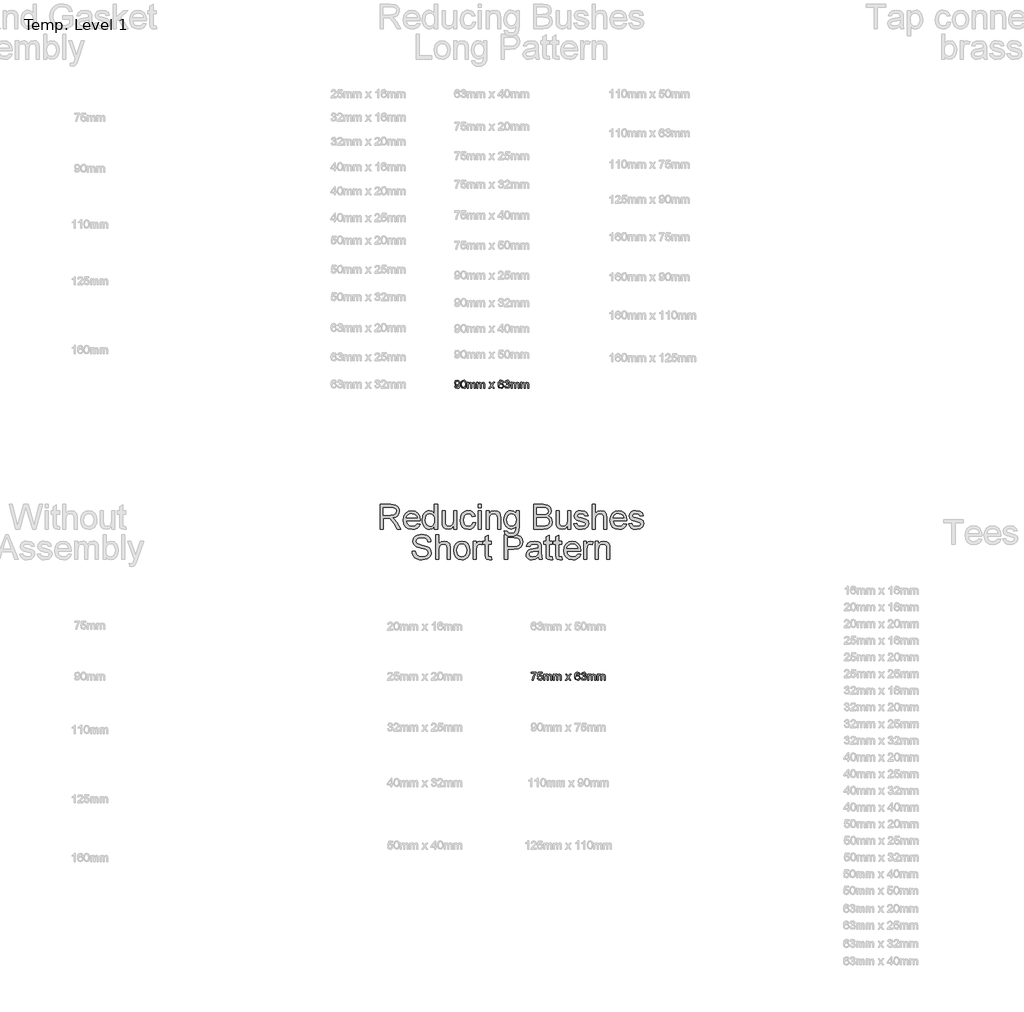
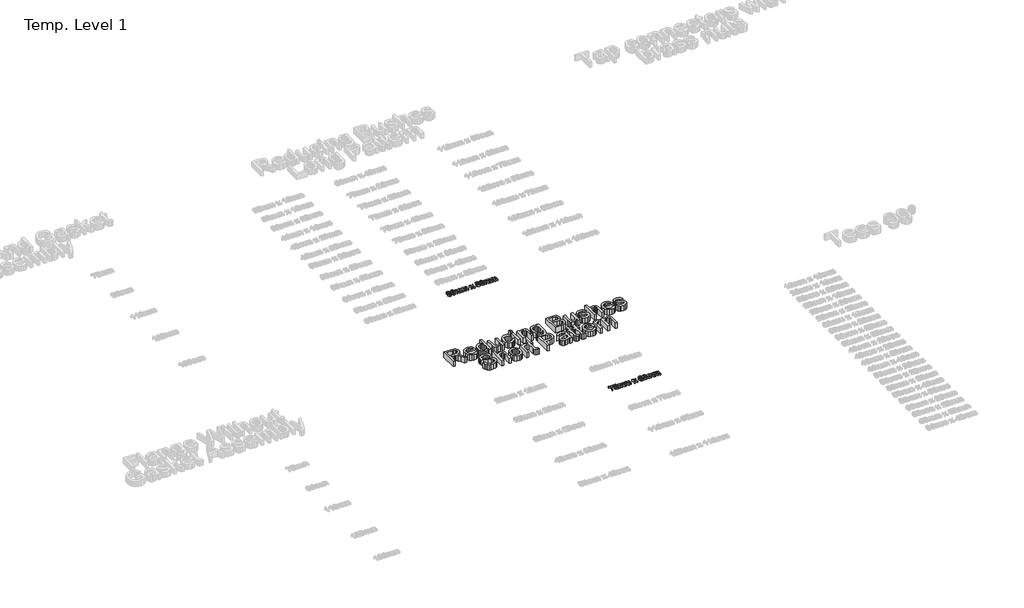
# One storey, part 41 of 62: 3 proxies.
"""IFC4 building model written with IfcOpenShell, lengths in millimetres."""

from ifc_helpers import new_model, si_unit, origin, origin_with_axes, place, context, project, spatial, polyline, outline, extrude, element, save

model = new_model("IFC4")

# Units and contexts
model_context = context("Model", 3, world=origin())
ifc_project = project(units=[si_unit("LENGTHUNIT", "METRE", prefix="MILLI")], contexts=[model_context])

# Site, building, storey
site = spatial("IfcSite", under=ifc_project)
building = spatial("IfcBuilding", under=site)
storey = spatial("IfcBuildingStorey", under=building, Name="Temp. Level 1", Elevation=0.0)

# Proxies
placement = place(None, origin())
element("IfcBuildingElementProxy", 1, Name="150mm Arial", ObjectType="150mm Arial", at=placement, inside=storey, context=model_context, shape_type="SweptSolid", body=[
    extrude(outline(polyline([(23633.4253288, -6979.0446709), (23633.4253288, -6831.3523632), (23697.0671558, -6831.3523632), (23726.6164346, -6835.3367382), (23735.7119875, -6840.8535651), (23742.7702808, -6849.4352959), (23747.3000284, -6860.0768223), (23748.8099442, -6871.7730362), (23746.3084418, -6886.3223151), (23738.8039346, -6898.3836132), (23726.071062, -6907.2267622), (23707.8844635, -6912.1215939), (23718.3772519, -6920.0182286), (23733.3411942, -6939.0206324), (23757.9685981, -6979.0446709), (23736.5142712, -6979.0446709), (23717.2955212, -6948.4316901), (23703.4133096, -6928.167267), (23693.6597038, -6918.5939497), (23684.8796558, -6915.0783247), (23674.1705212, -6914.4292862), (23651.8868673, -6914.4292862), (23651.8868673, -6979.0446709), (23633.4253288, -6979.0446709)]), holes=[polyline([(23651.8868673, -6895.9677478), (23693.2089827, -6895.9677478), (23714.2847038, -6893.3535651), (23726.2558577, -6884.9881805), (23730.3484058, -6872.4581324), (23728.3967832, -6863.4527237), (23722.5419154, -6856.1961132), (23712.4682976, -6851.4094545), (23697.860425, -6849.8139016), (23651.8868673, -6849.8139016), (23651.8868673, -6895.9677478)])]), origin_with_axes(), (0.0, 0.0, 1.0), 50.0),
    extrude(outline(polyline([(23854.7474442, -6946.7369786), (23872.8484058, -6949.0446709), (23866.3264707, -6962.683493), (23855.9193192, -6972.8788055), (23841.8613264, -6979.2339737), (23824.3868673, -6981.3523632), (23802.7252087, -6977.6970146), (23786.0575404, -6966.7309689), (23775.4295356, -6949.1663656), (23771.8868673, -6925.7153439), (23775.4655933, -6901.4755603), (23786.2017712, -6883.3475555), (23802.6440788, -6872.0434689), (23823.3411942, -6868.2754401), (23843.3937784, -6872.0344545), (23859.4169154, -6883.3114978), (23869.9232255, -6901.4034449), (23873.4253288, -6925.6071709), (23873.3171558, -6930.5831324), (23790.3484058, -6930.5831324), (23793.5440188, -6944.402243), (23800.9673962, -6954.5614978), (23811.681038, -6960.808493), (23824.7474442, -6962.8908247), (23842.8484058, -6959.0326516), (23854.7474442, -6946.7369786)]), holes=[polyline([(23790.3484058, -6912.1215939), (23854.9637904, -6912.1215939), (23852.4667952, -6902.3679882), (23847.5719635, -6895.3908247), (23836.8087423, -6888.9004401), (23823.2690788, -6886.7369786), (23810.8246678, -6888.4632406), (23800.5347038, -6893.6420266), (23793.3817591, -6901.7144425), (23790.3484058, -6912.1215939)])]), origin_with_axes(), (0.0, 0.0, 1.0), 50.0),
    extrude(outline(polyline([(23958.8099442, -6979.0446709), (23958.8099442, -6961.6288055), (23946.595401, -6976.4214737), (23929.7113865, -6981.3523632), (23917.7762904, -6979.5675074), (23906.8508096, -6974.2129401), (23897.6020115, -6965.6627598), (23890.6969635, -6954.2910651), (23886.3970837, -6940.5575915), (23884.9637904, -6924.9220747), (23890.2462423, -6895.5350555), (23896.8448, -6883.8794064), (23906.0755692, -6875.3066901), (23917.2399322, -6870.0332526), (23929.6392712, -6868.2754401), (23946.6585019, -6873.3054882), (23958.8099442, -6886.3764016), (23958.8099442, -6831.3523632), (23977.2714827, -6831.3523632), (23977.2714827, -6979.0446709), (23958.8099442, -6979.0446709)]), holes=[polyline([(23903.4253288, -6924.8499593), (23905.5076606, -6941.5491781), (23911.7546558, -6953.4256805), (23920.8321798, -6960.5245387), (23931.4060981, -6962.8908247), (23941.9755091, -6960.6327117), (23950.8231654, -6953.8583728), (23956.8132495, -6942.441606), (23958.8099442, -6926.2562093), (23956.7771918, -6908.5608968), (23950.6789346, -6896.292267), (23941.6059178, -6889.1258007), (23930.6488865, -6886.7369786), (23919.9667952, -6889.0311492), (23911.2137904, -6895.9136612), (23905.3724442, -6907.7360771), (23903.4253288, -6924.8499593)])]), origin_with_axes(), (0.0, 0.0, 1.0), 50.0),
    extrude(outline(polyline([(24074.1945596, -6979.0446709), (24074.1945596, -6960.4028439), (24059.735425, -6976.1149834), (24040.8772519, -6981.3523632), (24023.5154731, -6977.6744786), (24011.5443192, -6968.4437093), (24006.0455212, -6954.8499593), (24004.9637904, -6937.6864978), (24004.9637904, -6870.5831324), (24023.4253288, -6870.5831324), (24023.4253288, -6928.9965939), (24024.5431173, -6947.8187093), (24031.8448, -6958.870392), (24045.6008096, -6962.8908247), (24061.0154731, -6958.7802478), (24071.2017712, -6947.5843343), (24074.1945596, -6927.0134209), (24074.1945596, -6870.5831324), (24092.6560981, -6870.5831324), (24092.6560981, -6979.0446709), (24074.1945596, -6979.0446709)])), origin_with_axes(), (0.0, 0.0, 1.0), 50.0),
    extrude(outline(polyline([(24187.2714827, -6939.8139016), (24205.7330212, -6942.1215939), (24200.5857856, -6958.5413656), (24190.9133096, -6970.9497189), (24177.62605, -6978.7517021), (24161.6344635, -6981.3523632), (24141.9965428, -6977.7240579), (24126.6404731, -6966.839142), (24116.7291149, -6949.17538), (24113.4253288, -6925.2105362), (24119.0683577, -6894.5434689), (24126.1897519, -6883.0455723), (24136.2678769, -6874.8379401), (24148.3246678, -6869.9160651), (24161.3820596, -6868.2754401), (24176.9815188, -6870.5290459), (24189.4529731, -6877.2898632), (24198.399788, -6888.1973151), (24203.4253288, -6902.8908247), (24184.9637904, -6905.198517), (24176.4000885, -6891.370392), (24161.5262904, -6886.7369786), (24149.5957014, -6889.0176276), (24140.12605, -6895.8595747), (24133.946663, -6907.6324112), (24131.8868673, -6924.7057286), (24133.9015909, -6942.0089137), (24139.9457615, -6953.8223151), (24149.2441389, -6960.6236973), (24161.0214827, -6962.8908247), (24170.5812784, -6961.4755603), (24178.4193192, -6957.229767), (24184.1209418, -6950.0452718), (24187.2714827, -6939.8139016)])), origin_with_axes(), (0.0, 0.0, 1.0), 50.0),
    extrude(outline(polyline([(24221.8868673, -6849.8139016), (24221.8868673, -6831.3523632), (24240.3484058, -6831.3523632), (24240.3484058, -6849.8139016), (24221.8868673, -6849.8139016)])), origin_with_axes(), (0.0, 0.0, 1.0), 50.0),
    extrude(outline(polyline([(24221.8868673, -6979.0446709), (24221.8868673, -6870.5831324), (24240.3484058, -6870.5831324), (24240.3484058, -6979.0446709), (24221.8868673, -6979.0446709)])), origin_with_axes(), (0.0, 0.0, 1.0), 50.0),
    extrude(outline(polyline([(24268.0407135, -6979.0446709), (24268.0407135, -6870.5831324), (24286.5022519, -6870.5831324), (24286.5022519, -6885.7273632), (24300.6188385, -6872.6384209), (24319.891675, -6868.2754401), (24337.3255692, -6871.7910651), (24349.2246077, -6881.0218343), (24354.7594635, -6894.5975555), (24355.7330212, -6912.4461132), (24355.7330212, -6979.0446709), (24337.2714827, -6979.0446709), (24337.2714827, -6914.9340939), (24335.1440788, -6898.5999593), (24327.62605, -6889.964142), (24314.9517712, -6886.7369786), (24304.1389707, -6888.5488776), (24294.9217231, -6893.9845747), (24288.6071197, -6904.4863776), (24286.5022519, -6921.4965939), (24286.5022519, -6979.0446709), (24268.0407135, -6979.0446709)])), origin_with_axes(), (0.0, 0.0, 1.0), 50.0),
    extrude(outline(polyline([(24376.5022519, -6988.2754401), (24394.9637904, -6990.5831324), (24400.9493673, -7000.3187093), (24418.8700404, -7004.4292862), (24437.7642712, -6999.7778439), (24446.7786942, -6986.7249593), (24448.0407135, -6965.198517), (24435.0419154, -6975.5831324), (24419.1945596, -6979.0446709), (24400.1606053, -6975.0152237), (24385.9673962, -6962.9268824), (24377.1377688, -6945.2045266), (24374.1945596, -6924.2730362), (24379.4770115, -6895.6612574), (24385.9403529, -6884.0461733), (24394.7654731, -6875.4148632), (24405.6503889, -6870.0602959), (24418.2931173, -6868.2754401), (24434.7624683, -6872.3139016), (24448.0407135, -6884.4292862), (24448.0407135, -6870.5831324), (24466.5022519, -6870.5831324), (24466.5022519, -6964.2249593), (24465.2402327, -6985.8460531), (24461.454175, -7000.0843343), (24454.9322399, -7009.5269425), (24445.4625885, -7016.761017), (24433.2525524, -7021.3583728), (24418.5094635, -7022.8908247), (24401.3324803, -7020.7318704), (24387.8063385, -7014.2550074), (24379.1299563, -7003.4422069), (24376.5022519, -6988.2754401)]), holes=[polyline([(24392.6560981, -6923.011017), (24394.6257495, -6939.9446108), (24400.5347038, -6951.5867382), (24409.4184178, -6958.3340338), (24420.3123481, -6960.5831324), (24431.1251486, -6958.3475555), (24440.0539346, -6951.6408247), (24446.0440188, -6940.1474353), (24448.0407135, -6923.5518824), (24445.985425, -6907.5467742), (24439.8195596, -6896.0218343), (24430.7600644, -6889.0581925), (24420.0238865, -6886.7369786), (24409.4815188, -6889.0221348), (24400.6428769, -6895.8776036), (24394.6527928, -6907.2312694), (24392.6560981, -6923.011017)])]), origin_with_axes(), (0.0, 0.0, 1.0), 50.0),
    extrude(outline(polyline([(24554.1945596, -6979.0446709), (24554.1945596, -6831.3523632), (24610.5527327, -6831.3523632), (24638.1548962, -6835.6973151), (24647.4307375, -6841.2096348), (24654.4529731, -6849.0566901), (24660.3484058, -6867.9509209), (24655.3904731, -6885.2045266), (24640.4085019, -6898.2754401), (24650.8697399, -6903.7381805), (24658.5996077, -6912.0494786), (24663.3727447, -6922.6594545), (24664.9637904, -6935.0182286), (24660.6188385, -6954.8679882), (24649.8556173, -6969.0026036), (24633.7919154, -6976.5026036), (24610.1200404, -6979.0446709), (24554.1945596, -6979.0446709)]), holes=[polyline([(24572.6560981, -6891.3523632), (24606.3700404, -6891.3523632), (24626.0575404, -6889.7658247), (24637.9024923, -6882.932892), (24641.8868673, -6870.9076516), (24638.172925, -6858.8643824), (24627.5359058, -6851.7429882), (24603.8099442, -6849.8139016), (24572.6560981, -6849.8139016), (24572.6560981, -6891.3523632)]), polyline([(24572.6560981, -6960.5831324), (24610.516675, -6960.5831324), (24624.2185981, -6959.8619786), (24635.8111462, -6955.8415459), (24643.4914346, -6947.6384209), (24646.5022519, -6935.198517), (24642.9685981, -6920.8475555), (24631.5202808, -6912.2838536), (24608.7137904, -6909.8139016), (24572.6560981, -6909.8139016), (24572.6560981, -6960.5831324)])]), origin_with_axes(), (0.0, 0.0, 1.0), 50.0),
    extrude(outline(polyline([(24757.2714827, -6979.0446709), (24757.2714827, -6960.4028439), (24742.8123481, -6976.1149834), (24723.954175, -6981.3523632), (24706.5923962, -6977.6744786), (24694.6212423, -6968.4437093), (24689.1224442, -6954.8499593), (24688.0407135, -6937.6864978), (24688.0407135, -6870.5831324), (24706.5022519, -6870.5831324), (24706.5022519, -6928.9965939), (24707.6200404, -6947.8187093), (24714.9217231, -6958.870392), (24728.6777327, -6962.8908247), (24744.0923962, -6958.7802478), (24754.2786942, -6947.5843343), (24757.2714827, -6927.0134209), (24757.2714827, -6870.5831324), (24775.7330212, -6870.5831324), (24775.7330212, -6979.0446709), (24757.2714827, -6979.0446709)])), origin_with_axes(), (0.0, 0.0, 1.0), 50.0),
    extrude(outline(polyline([(24794.1945596, -6946.7369786), (24812.6560981, -6944.4292862), (24815.5677567, -6952.3259209), (24821.2017712, -6958.1312093), (24840.7810981, -6962.8908247), (24859.6032135, -6958.5278439), (24865.7330212, -6948.2874593), (24859.5671558, -6939.9941901), (24840.5647519, -6934.729767), (24812.7642712, -6925.6973151), (24800.6308577, -6915.1504401), (24796.5022519, -6900.2586132), (24799.8195596, -6886.5026036), (24808.8700404, -6875.9917862), (24820.6068192, -6870.5290459), (24836.4902327, -6868.2754401), (24858.954175, -6871.8992382), (24873.2330212, -6881.7069305), (24879.579175, -6898.2754401), (24861.1176365, -6900.5831324), (24854.1765308, -6890.3968343), (24837.9325404, -6886.7369786), (24820.2642712, -6890.2345747), (24814.9637904, -6898.3836132), (24817.1633096, -6903.7562093), (24824.0503288, -6907.8307286), (24839.9517712, -6911.761017), (24867.0491269, -6920.4509209), (24879.6332615, -6930.2946709), (24884.1945596, -6946.3403439), (24878.8399923, -6964.0086132), (24863.3892712, -6976.8271228), (24840.5286942, -6981.3523632), (24821.9139106, -6979.1708728), (24808.329175, -6972.6264016), (24799.2606654, -6961.7910651), (24794.1945596, -6946.7369786)])), origin_with_axes(), (0.0, 0.0, 1.0), 50.0),
    extrude(outline(polyline([(24904.9637904, -6979.0446709), (24904.9637904, -6831.3523632), (24923.4253288, -6831.3523632), (24923.4253288, -6885.6552478), (24937.8213625, -6872.620392), (24955.5527327, -6868.2754401), (24976.2859058, -6873.0170266), (24988.8700404, -6886.1239978), (24992.6560981, -6910.3908247), (24992.6560981, -6979.0446709), (24974.1945596, -6979.0446709), (24974.1945596, -6912.3018824), (24972.7252087, -6900.745392), (24968.3171558, -6892.8307286), (24961.2137904, -6888.2604161), (24951.6585019, -6886.7369786), (24936.5323, -6890.8475555), (24926.4361462, -6901.9893824), (24923.4253288, -6921.4244786), (24923.4253288, -6979.0446709), (24904.9637904, -6979.0446709)])), origin_with_axes(), (0.0, 0.0, 1.0), 50.0),
    extrude(outline(polyline([(25093.9782135, -6946.7369786), (25112.079175, -6949.0446709), (25105.5572399, -6962.683493), (25095.1500885, -6972.8788055), (25081.0920957, -6979.2339737), (25063.6176365, -6981.3523632), (25041.9559779, -6977.6970146), (25025.2883096, -6966.7309689), (25014.6603048, -6949.1663656), (25011.1176365, -6925.7153439), (25014.6963625, -6901.4755603), (25025.4325404, -6883.3475555), (25041.8748481, -6872.0434689), (25062.5719635, -6868.2754401), (25082.6245476, -6872.0344545), (25098.6476846, -6883.3114978), (25109.1539947, -6901.4034449), (25112.6560981, -6925.6071709), (25112.547925, -6930.5831324), (25029.579175, -6930.5831324), (25032.774788, -6944.402243), (25040.1981654, -6954.5614978), (25050.9118072, -6960.808493), (25063.9782135, -6962.8908247), (25082.079175, -6959.0326516), (25093.9782135, -6946.7369786)]), holes=[polyline([(25029.579175, -6912.1215939), (25094.1945596, -6912.1215939), (25091.6975644, -6902.3679882), (25086.8027327, -6895.3908247), (25076.0395115, -6888.9004401), (25062.4998481, -6886.7369786), (25050.055437, -6888.4632406), (25039.7654731, -6893.6420266), (25032.6125284, -6901.7144425), (25029.579175, -6912.1215939)])]), origin_with_axes(), (0.0, 0.0, 1.0), 50.0),
    extrude(outline(polyline([(25124.1945596, -6946.7369786), (25142.6560981, -6944.4292862), (25145.5677567, -6952.3259209), (25151.2017712, -6958.1312093), (25170.7810981, -6962.8908247), (25189.6032135, -6958.5278439), (25195.7330212, -6948.2874593), (25189.5671558, -6939.9941901), (25170.5647519, -6934.729767), (25142.7642712, -6925.6973151), (25130.6308577, -6915.1504401), (25126.5022519, -6900.2586132), (25129.8195596, -6886.5026036), (25138.8700404, -6875.9917862), (25150.6068192, -6870.5290459), (25166.4902327, -6868.2754401), (25188.954175, -6871.8992382), (25203.2330212, -6881.7069305), (25209.579175, -6898.2754401), (25191.1176365, -6900.5831324), (25184.1765308, -6890.3968343), (25167.9325404, -6886.7369786), (25150.2642712, -6890.2345747), (25144.9637904, -6898.3836132), (25147.1633096, -6903.7562093), (25154.0503288, -6907.8307286), (25169.9517712, -6911.761017), (25197.0491269, -6920.4509209), (25209.6332615, -6930.2946709), (25214.1945596, -6946.3403439), (25208.8399923, -6964.0086132), (25193.3892712, -6976.8271228), (25170.5286942, -6981.3523632), (25151.9139106, -6979.1708728), (25138.329175, -6972.6264016), (25129.2606654, -6961.7910651), (25124.1945596, -6946.7369786)])), origin_with_axes(), (0.0, 0.0, 1.0), 50.0),
    extrude(outline(polyline([(23824.9637904, -7110.5831324), (23843.4253288, -7110.5831324), (23849.3748481, -7129.0626997), (23863.9060981, -7140.745392), (23886.0455212, -7145.198517), (23905.3363865, -7141.8271228), (23917.7943192, -7132.5602959), (23921.8868673, -7120.1744786), (23918.8219635, -7108.6540459), (23906.2738865, -7100.2706324), (23879.3928769, -7093.2213536), (23850.4565788, -7084.1167862), (23834.7534538, -7070.3788055), (23829.579175, -7052.0254401), (23831.1792351, -7041.2126396), (23835.9794154, -7031.1300074), (23843.8535139, -7022.5843343), (23854.6753288, -7016.3824112), (23882.0431173, -7011.3523632), (23911.2498481, -7016.6167862), (23922.4457615, -7023.1161853), (23930.7210019, -7032.0855362), (23935.9583817, -7042.9659449), (23938.0407135, -7055.198517), (23919.579175, -7055.198517), (23916.1897519, -7044.182892), (23909.1224442, -7036.2321709), (23898.079776, -7031.4184689), (23882.7642712, -7029.8139016), (23867.0881894, -7031.4004401), (23856.3339827, -7036.1600555), (23850.1140308, -7043.1642622), (23848.0407135, -7051.4845747), (23849.5100644, -7058.5789257), (23853.9181173, -7064.2850555), (23884.0623481, -7074.5975555), (23916.7306173, -7083.8643824), (23927.2549563, -7090.5620987), (23934.5972038, -7098.8283247), (23940.3484058, -7119.7057286), (23938.6942591, -7131.0864377), (23933.7318192, -7141.7910651), (23925.6639106, -7151.0038055), (23914.6933577, -7157.9088536), (23886.766675, -7163.6600555), (23868.6792351, -7162.1095747), (23853.7919154, -7157.4581324), (23841.9334418, -7149.6876997), (23832.9325404, -7138.7802478), (23827.1542952, -7125.4929882), (23824.9637904, -7110.5831324)])), origin_with_axes(), (0.0, 0.0, 1.0), 50.0),
    extrude(outline(polyline([(23965.7330212, -7161.3523632), (23965.7330212, -7013.6600555), (23984.1945596, -7013.6600555), (23984.1945596, -7067.9629401), (23998.5905933, -7054.9280843), (24016.3219635, -7050.5831324), (24037.0551365, -7055.3247189), (24049.6392712, -7068.4316901), (24053.4253288, -7092.698517), (24053.4253288, -7161.3523632), (24034.9637904, -7161.3523632), (24034.9637904, -7094.6095747), (24033.4944394, -7083.0530843), (24029.0863865, -7075.1384209), (24021.9830212, -7070.5681084), (24012.4277327, -7069.0446709), (23997.3015308, -7073.1552478), (23987.2053769, -7084.2970747), (23984.1945596, -7103.7321709), (23984.1945596, -7161.3523632), (23965.7330212, -7161.3523632)])), origin_with_axes(), (0.0, 0.0, 1.0), 50.0),
    extrude(outline(polyline([(24074.1945596, -7107.1215939), (24078.187949, -7080.9707526), (24090.1681173, -7062.5903439), (24104.9698, -7053.5849353), (24122.6921558, -7050.5831324), (24142.086687, -7054.238481), (24157.5779731, -7065.2045266), (24167.7327207, -7082.6158848), (24171.1176365, -7105.6071709), (24169.6212423, -7124.2580122), (24165.1320596, -7138.4557286), (24157.7807976, -7149.0882406), (24147.6981654, -7157.0434689), (24135.7225043, -7162.0059088), (24122.6921558, -7163.6600555), (24103.0632495, -7160.0182286), (24087.5899923, -7149.0927478), (24077.5434178, -7131.3163055), (24074.1945596, -7107.1215939)]), holes=[polyline([(24092.6560981, -7107.0855362), (24094.7925163, -7123.7937694), (24101.2017712, -7135.6973151), (24110.8472038, -7142.8232165), (24122.6921558, -7145.198517), (24134.4830212, -7142.8096949), (24144.110425, -7135.6432286), (24150.5196798, -7123.5819305), (24152.6560981, -7106.5086132), (24150.5061582, -7090.2871588), (24144.0563385, -7078.5458728), (24134.415413, -7071.4199713), (24122.6921558, -7069.0446709), (24110.8472038, -7071.4109569), (24101.2017712, -7078.5098151), (24094.7925163, -7090.3863175), (24092.6560981, -7107.0855362)])]), origin_with_axes(), (0.0, 0.0, 1.0), 50.0),
    extrude(outline(polyline([(24191.8868673, -7161.3523632), (24191.8868673, -7052.8908247), (24208.0407135, -7052.8908247), (24208.0407135, -7068.9364978), (24219.5070596, -7054.1528439), (24231.0455212, -7050.5831324), (24249.579175, -7056.2802478), (24243.4133096, -7072.8307286), (24230.4325404, -7069.0446709), (24219.9938385, -7072.6864978), (24213.3411942, -7082.7826516), (24210.3484058, -7104.3451516), (24210.3484058, -7161.3523632), (24191.8868673, -7161.3523632)])), origin_with_axes(), (0.0, 0.0, 1.0), 50.0),
    extrude(outline(polyline([(24300.3484058, -7145.9557286), (24302.6560981, -7161.8932286), (24288.8460019, -7163.6600555), (24273.3772519, -7160.5951516), (24265.6609058, -7152.5542862), (24263.4253288, -7131.604767), (24263.4253288, -7071.3523632), (24249.579175, -7071.3523632), (24249.579175, -7052.8908247), (24263.4253288, -7052.8908247), (24263.4253288, -7026.5326516), (24281.8868673, -7015.6792862), (24281.8868673, -7052.8908247), (24300.3484058, -7052.8908247), (24300.3484058, -7071.3523632), (24281.8868673, -7071.3523632), (24281.8868673, -7131.0639016), (24282.860425, -7140.5831324), (24286.0154731, -7143.9545266), (24292.3075404, -7145.198517), (24300.3484058, -7145.9557286)])), origin_with_axes(), (0.0, 0.0, 1.0), 50.0),
    extrude(outline(polyline([(24378.8099442, -7161.3523632), (24378.8099442, -7013.6600555), (24433.5455212, -7013.6600555), (24455.6128288, -7015.0663055), (24473.5515308, -7021.9713536), (24485.1801365, -7036.2501997), (24489.579175, -7056.3884209), (24486.6089226, -7073.7952718), (24477.6981654, -7088.2994786), (24461.0350043, -7098.089142), (24434.8075404, -7101.3523632), (24397.2714827, -7101.3523632), (24397.2714827, -7161.3523632), (24378.8099442, -7161.3523632)]), holes=[polyline([(24397.2714827, -7082.8908247), (24435.8892712, -7082.8908247), (24452.2594635, -7081.1961132), (24463.0767712, -7076.1119786), (24469.1074202, -7067.9539257), (24471.1176365, -7057.0374593), (24466.37605, -7041.7489978), (24453.9181173, -7033.3836132), (24435.4565788, -7032.1215939), (24397.2714827, -7032.1215939), (24397.2714827, -7082.8908247)])]), origin_with_axes(), (0.0, 0.0, 1.0), 50.0),
    extrude(outline(polyline([(24581.8868673, -7147.5062093), (24563.9842231, -7160.0182286), (24544.2065788, -7163.6600555), (24528.7783938, -7161.4695507), (24517.3976846, -7154.8980362), (24510.3799563, -7144.9190699), (24508.0407135, -7132.5062093), (24511.5743673, -7117.9028439), (24520.8592231, -7107.3018824), (24533.7859058, -7101.2441901), (24549.7594635, -7098.4677478), (24581.7786942, -7092.1215939), (24581.8868673, -7088.011017), (24580.6158337, -7079.7718343), (24576.8027327, -7074.3812093), (24568.2750885, -7070.3788055), (24556.3940788, -7069.0446709), (24537.7161942, -7072.5963536), (24528.8099442, -7085.198517), (24510.3484058, -7082.8908247), (24518.3351846, -7064.8619786), (24534.4169154, -7054.2970747), (24558.7738865, -7050.5831324), (24581.1476846, -7053.8643824), (24593.7859058, -7062.1035651), (24599.4469635, -7074.6336132), (24600.3484058, -7090.7874593), (24600.3484058, -7113.7562093), (24601.2859058, -7145.8295266), (24604.9637904, -7161.3523632), (24586.5022519, -7161.3523632), (24581.8868673, -7147.5062093)]), holes=[polyline([(24581.8868673, -7110.5831324), (24552.1032135, -7116.2441901), (24536.2198, -7119.2369786), (24529.0262904, -7124.104767), (24526.5022519, -7131.2081324), (24532.00105, -7141.1961132), (24548.1368673, -7145.198517), (24566.8147519, -7140.7814497), (24578.8580212, -7130.0903439), (24581.7786942, -7115.8114978), (24581.8868673, -7110.5831324)])]), origin_with_axes(), (0.0, 0.0, 1.0), 50.0),
    extrude(outline(polyline([(24664.9637904, -7145.9557286), (24667.2714827, -7161.8932286), (24653.4613865, -7163.6600555), (24637.9926365, -7160.5951516), (24630.2762904, -7152.5542862), (24628.0407135, -7131.604767), (24628.0407135, -7071.3523632), (24614.1945596, -7071.3523632), (24614.1945596, -7052.8908247), (24628.0407135, -7052.8908247), (24628.0407135, -7026.5326516), (24646.5022519, -7015.6792862), (24646.5022519, -7052.8908247), (24664.9637904, -7052.8908247), (24664.9637904, -7071.3523632), (24646.5022519, -7071.3523632), (24646.5022519, -7131.0639016), (24647.4758096, -7140.5831324), (24650.6308577, -7143.9545266), (24656.922925, -7145.198517), (24664.9637904, -7145.9557286)])), origin_with_axes(), (0.0, 0.0, 1.0), 50.0),
    extrude(outline(polyline([(24722.6560981, -7145.9557286), (24724.9637904, -7161.8932286), (24711.1536942, -7163.6600555), (24695.6849442, -7160.5951516), (24687.9685981, -7152.5542862), (24685.7330212, -7131.604767), (24685.7330212, -7071.3523632), (24671.8868673, -7071.3523632), (24671.8868673, -7052.8908247), (24685.7330212, -7052.8908247), (24685.7330212, -7026.5326516), (24704.1945596, -7015.6792862), (24704.1945596, -7052.8908247), (24722.6560981, -7052.8908247), (24722.6560981, -7071.3523632), (24704.1945596, -7071.3523632), (24704.1945596, -7131.0639016), (24705.1681173, -7140.5831324), (24708.3231654, -7143.9545266), (24714.6152327, -7145.198517), (24722.6560981, -7145.9557286)])), origin_with_axes(), (0.0, 0.0, 1.0), 50.0),
    extrude(outline(polyline([(24817.0551365, -7129.0446709), (24835.1560981, -7131.3523632), (24828.634163, -7144.9911853), (24818.2270115, -7155.1864978), (24804.1690188, -7161.5416661), (24786.6945596, -7163.6600555), (24765.032901, -7160.0047069), (24748.3652327, -7149.0386612), (24737.7372279, -7131.4740579), (24734.1945596, -7108.0230362), (24737.7732856, -7083.7832526), (24748.5094635, -7065.6552478), (24764.9517712, -7054.3511612), (24785.6488865, -7050.5831324), (24805.7014707, -7054.3421468), (24821.7246077, -7065.6191901), (24832.2309178, -7083.7111372), (24835.7330212, -7107.9148632), (24835.6248481, -7112.8908247), (24752.6560981, -7112.8908247), (24755.8517111, -7126.7099353), (24763.2750885, -7136.8691901), (24773.9887303, -7143.1161853), (24787.0551365, -7145.198517), (24805.1560981, -7141.3403439), (24817.0551365, -7129.0446709)]), holes=[polyline([(24752.6560981, -7094.4292862), (24817.2714827, -7094.4292862), (24814.7744875, -7084.6756805), (24809.8796558, -7077.698517), (24799.1164346, -7071.2081324), (24785.5767712, -7069.0446709), (24773.1323601, -7070.7709329), (24762.8423962, -7075.9497189), (24755.6894514, -7084.0221348), (24752.6560981, -7094.4292862)])]), origin_with_axes(), (0.0, 0.0, 1.0), 50.0),
    extrude(outline(polyline([(24854.1945596, -7161.3523632), (24854.1945596, -7052.8908247), (24870.3484058, -7052.8908247), (24870.3484058, -7068.9364978), (24881.8147519, -7054.1528439), (24893.3532135, -7050.5831324), (24911.8868673, -7056.2802478), (24905.7210019, -7072.8307286), (24892.7402327, -7069.0446709), (24882.3015308, -7072.6864978), (24875.6488865, -7082.7826516), (24872.6560981, -7104.3451516), (24872.6560981, -7161.3523632), (24854.1945596, -7161.3523632)])), origin_with_axes(), (0.0, 0.0, 1.0), 50.0),
    extrude(outline(polyline([(24923.4253288, -7161.3523632), (24923.4253288, -7052.8908247), (24941.8868673, -7052.8908247), (24941.8868673, -7068.0350555), (24956.0034538, -7054.9461132), (24975.2762904, -7050.5831324), (24992.7101846, -7054.0987574), (25004.6092231, -7063.3295266), (25010.1440788, -7076.9052478), (25011.1176365, -7094.7538055), (25011.1176365, -7161.3523632), (24992.6560981, -7161.3523632), (24992.6560981, -7097.2417862), (24990.5286942, -7080.9076516), (24983.0106654, -7072.2718343), (24970.3363865, -7069.0446709), (24959.5235861, -7070.8565699), (24950.3063385, -7076.292267), (24943.9917351, -7086.7940699), (24941.8868673, -7103.8042862), (24941.8868673, -7161.3523632), (24923.4253288, -7161.3523632)])), origin_with_axes(), (0.0, 0.0, 1.0), 50.0),
])
element("IfcBuildingElementProxy", 2, Name="50mm Arial", ObjectType="50mm Arial", at=placement, inside=storey, context=model_context, shape_type="SweptSolid", body=[
    extrude(outline(polyline([(24080.1485724, -6123.2165118), (24086.3024185, -6122.447281), (24089.0668416, -6128.3186753), (24094.3072262, -6130.1395887), (24099.2891974, -6128.9677137), (24102.6666012, -6125.8367041), (24104.6798224, -6120.4881464), (24105.5692455, -6113.3487233), (24100.6113128, -6116.8102618), (24093.8625147, -6118.6011272), (24083.5800628, -6114.2261272), (24079.3793416, -6102.6996849), (24083.7843897, -6090.8006464), (24094.8240532, -6086.2934349), (24103.592082, -6088.8655503), (24109.6257359, -6096.197281), (24111.6870339, -6109.9713195), (24109.6317455, -6124.917233), (24103.5199666, -6133.384781), (24094.0187647, -6136.2934349), (24084.5596301, -6132.8619445), (24080.1485724, -6123.2165118)]), holes=[polyline([(24105.5331878, -6102.5554541), (24102.8769378, -6095.1756464), (24095.8216493, -6092.447281), (24088.4178032, -6095.385983), (24085.5331878, -6103.0001657), (24088.2615532, -6109.8210791), (24095.6533801, -6112.447281), (24102.7507359, -6109.8210791), (24105.5331878, -6102.5554541)])]), origin_with_axes(), (0.0, 0.0, 1.0), 15.0),
    extrude(outline(polyline([(24117.0716493, -6111.3054541), (24118.8805435, -6097.1407907), (24124.2531397, -6088.9737233), (24133.2254955, -6086.2934349), (24140.4129955, -6087.8799733), (24145.3769378, -6092.4532907), (24148.2615532, -6099.7369445), (24149.3793416, -6111.3054541), (24147.5884762, -6125.4100214), (24142.2339089, -6133.5951176), (24133.2254955, -6136.2934349), (24121.9754955, -6131.6059349), (24118.2976109, -6123.2796128), (24117.0716493, -6111.3054541)]), holes=[polyline([(24123.2254955, -6111.2934349), (24126.1101109, -6126.5758868), (24133.2254955, -6130.1395887), (24140.3408801, -6126.5638676), (24143.2254955, -6111.2934349), (24140.4370339, -6096.1852618), (24133.1533801, -6092.447281), (24126.2062647, -6095.7405503), (24123.2254955, -6111.2934349)])]), origin_with_axes(), (0.0, 0.0, 1.0), 15.0),
    extrude(outline(polyline([(24156.3024185, -6135.5242041), (24156.3024185, -6099.370358), (24162.4562647, -6099.370358), (24162.4562647, -6105.3198772), (24166.6870339, -6100.4460791), (24172.7086685, -6098.6011272), (24178.8745339, -6100.4821368), (24182.263957, -6105.7525695), (24187.0656397, -6100.3889878), (24193.1293416, -6098.6011272), (24201.1762166, -6101.5758868), (24203.9947262, -6110.7405503), (24203.9947262, -6135.5242041), (24197.8408801, -6135.5242041), (24197.8408801, -6113.384781), (24197.2699666, -6108.2465599), (24195.2026589, -6105.7165118), (24191.6870339, -6104.7549733), (24185.6353512, -6107.2189157), (24183.2254955, -6115.1155503), (24183.2254955, -6135.5242041), (24177.0716493, -6135.5242041), (24177.0716493, -6112.6996849), (24175.6473705, -6106.7381464), (24170.9778993, -6104.7549733), (24166.4226109, -6106.0770887), (24163.3937647, -6109.947281), (24162.4562647, -6117.291031), (24162.4562647, -6135.5242041), (24156.3024185, -6135.5242041)])), origin_with_axes(), (0.0, 0.0, 1.0), 15.0),
    extrude(outline(polyline([(24213.2254955, -6135.5242041), (24213.2254955, -6099.370358), (24219.3793416, -6099.370358), (24219.3793416, -6105.3198772), (24223.6101109, -6100.4460791), (24229.6317455, -6098.6011272), (24235.7976109, -6100.4821368), (24239.1870339, -6105.7525695), (24243.9887166, -6100.3889878), (24250.0524185, -6098.6011272), (24258.0992935, -6101.5758868), (24260.9178032, -6110.7405503), (24260.9178032, -6135.5242041), (24254.763957, -6135.5242041), (24254.763957, -6113.384781), (24254.1930435, -6108.2465599), (24252.1257359, -6105.7165118), (24248.6101109, -6104.7549733), (24242.5584282, -6107.2189157), (24240.1485724, -6115.1155503), (24240.1485724, -6135.5242041), (24233.9947262, -6135.5242041), (24233.9947262, -6112.6996849), (24232.5704474, -6106.7381464), (24227.9009762, -6104.7549733), (24223.3456878, -6106.0770887), (24220.3168416, -6109.947281), (24219.3793416, -6117.291031), (24219.3793416, -6135.5242041), (24213.2254955, -6135.5242041)])), origin_with_axes(), (0.0, 0.0, 1.0), 15.0),
    extrude(outline(polyline([(24285.5331878, -6135.5242041), (24298.6822262, -6117.3511272), (24286.3024185, -6099.370358), (24293.7062647, -6099.370358), (24299.6798224, -6108.0242041), (24302.4682839, -6112.1107426), (24304.8841493, -6108.7693964), (24311.6870339, -6099.370358), (24319.0908801, -6099.370358), (24306.0860724, -6117.3511272), (24318.6101109, -6135.5242041), (24311.2062647, -6135.5242041), (24303.670207, -6124.5987233), (24302.2879955, -6122.603531), (24292.9370339, -6135.5242041), (24285.5331878, -6135.5242041)])), origin_with_axes(), (0.0, 0.0, 1.0), 15.0),
    extrude(outline(polyline([(24373.2254955, -6099.370358), (24367.0716493, -6100.1395887), (24364.7399185, -6095.0073772), (24358.5740532, -6092.447281), (24353.0211685, -6093.9376657), (24348.8204474, -6099.5326176), (24347.0716493, -6110.5001657), (24352.498332, -6105.5903099), (24359.2230916, -6103.9857426), (24369.6798224, -6108.3727618), (24373.9947262, -6119.7068964), (24371.9634762, -6128.198483), (24366.3745339, -6134.2080983), (24358.3096301, -6136.2934349), (24345.7675628, -6130.7645887), (24342.1302431, -6123.4448772), (24340.9178032, -6112.5434349), (24342.263957, -6100.2868243), (24346.3024185, -6091.9064157), (24351.8162407, -6087.6966801), (24358.9586685, -6086.2934349), (24368.6822262, -6089.7669926), (24373.2254955, -6099.370358)]), holes=[polyline([(24347.0716493, -6119.6107426), (24348.4959282, -6124.9412714), (24352.2819859, -6128.8114637), (24357.8288609, -6130.1395887), (24365.0824666, -6127.3871849), (24367.8408801, -6119.9112233), (24365.1185243, -6112.7537714), (24357.576457, -6110.1395887), (24350.1305435, -6112.7537714), (24347.0716493, -6119.6107426)])]), origin_with_axes(), (0.0, 0.0, 1.0), 15.0),
    extrude(outline(polyline([(24379.3793416, -6122.447281), (24385.5331878, -6121.6780503), (24388.9286205, -6128.1564157), (24395.2807839, -6130.1395887), (24402.7567455, -6127.4112233), (24405.5331878, -6120.6564157), (24402.7807839, -6114.292233), (24395.7855916, -6111.7742041), (24391.4706878, -6112.447281), (24392.1557839, -6106.2934349), (24400.1245339, -6104.5987233), (24403.2254955, -6099.166031), (24400.9778993, -6094.3523291), (24395.1846301, -6092.447281), (24389.3192455, -6094.370358), (24386.3024185, -6100.1395887), (24380.1485724, -6099.370358), (24385.1846301, -6089.7189157), (24394.9682839, -6086.2934349), (24402.3901589, -6087.9821368), (24407.5824666, -6092.5975214), (24409.3793416, -6098.8054541), (24407.6726109, -6104.478531), (24402.6245339, -6108.5530503), (24409.3312647, -6112.759781), (24411.6870339, -6120.7645887), (24406.9754955, -6131.7742041), (24395.0644378, -6136.2934349), (24384.2711685, -6132.4352618), (24379.3793416, -6122.447281)])), origin_with_axes(), (0.0, 0.0, 1.0), 15.0),
    extrude(outline(polyline([(24418.6101109, -6135.5242041), (24418.6101109, -6099.370358), (24424.763957, -6099.370358), (24424.763957, -6105.3198772), (24428.9947262, -6100.4460791), (24435.0163609, -6098.6011272), (24441.1822262, -6100.4821368), (24444.5716493, -6105.7525695), (24449.373332, -6100.3889878), (24455.4370339, -6098.6011272), (24463.4839089, -6101.5758868), (24466.3024185, -6110.7405503), (24466.3024185, -6135.5242041), (24460.1485724, -6135.5242041), (24460.1485724, -6113.384781), (24459.5776589, -6108.2465599), (24457.5103512, -6105.7165118), (24453.9947262, -6104.7549733), (24447.9430435, -6107.2189157), (24445.5331878, -6115.1155503), (24445.5331878, -6135.5242041), (24439.3793416, -6135.5242041), (24439.3793416, -6112.6996849), (24437.9550628, -6106.7381464), (24433.2855916, -6104.7549733), (24428.7303032, -6106.0770887), (24425.701457, -6109.947281), (24424.763957, -6117.291031), (24424.763957, -6135.5242041), (24418.6101109, -6135.5242041)])), origin_with_axes(), (0.0, 0.0, 1.0), 15.0),
    extrude(outline(polyline([(24475.5331878, -6135.5242041), (24475.5331878, -6099.370358), (24481.6870339, -6099.370358), (24481.6870339, -6105.3198772), (24485.9178032, -6100.4460791), (24491.9394378, -6098.6011272), (24498.1053032, -6100.4821368), (24501.4947262, -6105.7525695), (24506.2964089, -6100.3889878), (24512.3601109, -6098.6011272), (24520.4069859, -6101.5758868), (24523.2254955, -6110.7405503), (24523.2254955, -6135.5242041), (24517.0716493, -6135.5242041), (24517.0716493, -6113.384781), (24516.5007359, -6108.2465599), (24514.4334282, -6105.7165118), (24510.9178032, -6104.7549733), (24504.8661205, -6107.2189157), (24502.4562647, -6115.1155503), (24502.4562647, -6135.5242041), (24496.3024185, -6135.5242041), (24496.3024185, -6112.6996849), (24494.8781397, -6106.7381464), (24490.2086685, -6104.7549733), (24485.6533801, -6106.0770887), (24482.6245339, -6109.947281), (24481.6870339, -6117.291031), (24481.6870339, -6135.5242041), (24475.5331878, -6135.5242041)])), origin_with_axes(), (0.0, 0.0, 1.0), 15.0),
])
element("IfcBuildingElementProxy", 3, Name="50mm Arial", ObjectType="50mm Arial", at=placement, inside=storey, context=model_context, shape_type="SweptSolid", body=[
    extrude(outline(polyline([(24538.0515626, -7842.9674528), (24538.0515626, -7836.8136066), (24570.3592549, -7836.8136066), (24570.3592549, -7841.7895682), (24561.1945915, -7855.0287509), (24554.1813703, -7871.8977413), (24551.8977165, -7885.2751451), (24545.7438703, -7885.2751451), (24548.1897838, -7871.3929336), (24554.9025242, -7855.7018278), (24564.2054088, -7842.9674528), (24538.0515626, -7842.9674528)])), origin_with_axes(), (0.0, 0.0, 1.0), 15.0),
    extrude(outline(polyline([(24575.7438703, -7872.198222), (24581.8977165, -7871.4289913), (24584.998678, -7877.7691355), (24591.4289665, -7879.8905297), (24599.1453126, -7876.9398086), (24601.8977165, -7869.1092797), (24599.3195915, -7861.8015874), (24591.5251203, -7859.121299), (24586.1224761, -7860.1910105), (24582.6669472, -7862.9674528), (24576.5131011, -7862.198222), (24581.8977165, -7836.8136066), (24605.7438703, -7836.8136066), (24605.7438703, -7842.9674528), (24586.873678, -7842.9674528), (24584.2414665, -7856.5251451), (24593.2438703, -7852.9674528), (24603.7667068, -7857.3785105), (24608.0515626, -7868.7246643), (24604.1933895, -7880.1429336), (24598.6525242, -7884.5690153), (24591.404928, -7886.0443759), (24580.545553, -7882.2523086), (24575.7438703, -7872.198222)])), origin_with_axes(), (0.0, 0.0, 1.0), 15.0),
    extrude(outline(polyline([(24614.9746395, -7885.2751451), (24614.9746395, -7849.121299), (24621.1284857, -7849.121299), (24621.1284857, -7855.0708182), (24625.3592549, -7850.1970201), (24631.3808895, -7848.3520682), (24637.5467549, -7850.2330778), (24640.936178, -7855.5035105), (24645.7378607, -7850.1399288), (24651.8015626, -7848.3520682), (24659.8484376, -7851.3268278), (24662.6669472, -7860.4914913), (24662.6669472, -7885.2751451), (24656.5131011, -7885.2751451), (24656.5131011, -7863.135722), (24655.9421876, -7857.9975009), (24653.8748799, -7855.4674528), (24650.3592549, -7854.5059143), (24644.3075722, -7856.9698566), (24641.8977165, -7864.8664913), (24641.8977165, -7885.2751451), (24635.7438703, -7885.2751451), (24635.7438703, -7862.4506259), (24634.3195915, -7856.4890874), (24629.6501203, -7854.5059143), (24625.0948318, -7855.8280297), (24622.0659857, -7859.698222), (24621.1284857, -7867.041972), (24621.1284857, -7885.2751451), (24614.9746395, -7885.2751451)])), origin_with_axes(), (0.0, 0.0, 1.0), 15.0),
    extrude(outline(polyline([(24671.8977165, -7885.2751451), (24671.8977165, -7849.121299), (24678.0515626, -7849.121299), (24678.0515626, -7855.0708182), (24682.2823318, -7850.1970201), (24688.3039665, -7848.3520682), (24694.4698318, -7850.2330778), (24697.8592549, -7855.5035105), (24702.6609376, -7850.1399288), (24708.7246395, -7848.3520682), (24716.7715145, -7851.3268278), (24719.5900242, -7860.4914913), (24719.5900242, -7885.2751451), (24713.436178, -7885.2751451), (24713.436178, -7863.135722), (24712.8652645, -7857.9975009), (24710.7979568, -7855.4674528), (24707.2823318, -7854.5059143), (24701.2306492, -7856.9698566), (24698.8207934, -7864.8664913), (24698.8207934, -7885.2751451), (24692.6669472, -7885.2751451), (24692.6669472, -7862.4506259), (24691.2426684, -7856.4890874), (24686.5731972, -7854.5059143), (24682.0179088, -7855.8280297), (24678.9890626, -7859.698222), (24678.0515626, -7867.041972), (24678.0515626, -7885.2751451), (24671.8977165, -7885.2751451)])), origin_with_axes(), (0.0, 0.0, 1.0), 15.0),
    extrude(outline(polyline([(24744.2054088, -7885.2751451), (24757.3544472, -7867.1020682), (24744.9746395, -7849.121299), (24752.3784857, -7849.121299), (24758.3520434, -7857.7751451), (24761.1405049, -7861.8616836), (24763.5563703, -7858.5203374), (24770.3592549, -7849.121299), (24777.7631011, -7849.121299), (24764.7582934, -7867.1020682), (24777.2823318, -7885.2751451), (24769.8784857, -7885.2751451), (24762.342428, -7874.3496643), (24760.9602165, -7872.354472), (24751.6092549, -7885.2751451), (24744.2054088, -7885.2751451)])), origin_with_axes(), (0.0, 0.0, 1.0), 15.0),
    extrude(outline(polyline([(24831.8977165, -7849.121299), (24825.7438703, -7849.8905297), (24823.4121395, -7844.7583182), (24817.2462742, -7842.198222), (24811.6933895, -7843.6886066), (24807.4926684, -7849.2835586), (24805.7438703, -7860.2511066), (24811.170553, -7855.3412509), (24817.8953126, -7853.7366836), (24828.3520434, -7858.1237028), (24832.6669472, -7869.4578374), (24830.6356972, -7877.949424), (24825.0467549, -7883.9590393), (24816.9818511, -7886.0443759), (24804.4397838, -7880.5155297), (24800.8024641, -7873.1958182), (24799.5900242, -7862.2943759), (24800.936178, -7850.0377653), (24804.9746395, -7841.6573566), (24810.4884617, -7837.4476211), (24817.6308895, -7836.0443759), (24827.3544472, -7839.5179336), (24831.8977165, -7849.121299)]), holes=[polyline([(24805.7438703, -7869.3616836), (24807.1681492, -7874.6922124), (24810.9542068, -7878.5624047), (24816.5010818, -7879.8905297), (24823.7546876, -7877.1381259), (24826.5131011, -7869.6621643), (24823.7907453, -7862.5047124), (24816.248678, -7859.8905297), (24808.8027645, -7862.5047124), (24805.7438703, -7869.3616836)])]), origin_with_axes(), (0.0, 0.0, 1.0), 15.0),
    extrude(outline(polyline([(24838.0515626, -7872.198222), (24844.2054088, -7871.4289913), (24847.6008415, -7877.9073566), (24853.9530049, -7879.8905297), (24861.4289665, -7877.1621643), (24864.2054088, -7870.4073566), (24861.4530049, -7864.043174), (24854.4578126, -7861.5251451), (24850.1429088, -7862.198222), (24850.8280049, -7856.0443759), (24858.7967549, -7854.3496643), (24861.8977165, -7848.916972), (24859.6501203, -7844.1032701), (24853.8568511, -7842.198222), (24847.9914665, -7844.121299), (24844.9746395, -7849.8905297), (24838.8207934, -7849.121299), (24843.8568511, -7839.4698566), (24853.6405049, -7836.0443759), (24861.0623799, -7837.7330778), (24866.2546876, -7842.3484624), (24868.0515626, -7848.5563951), (24866.3448318, -7854.229472), (24861.2967549, -7858.3039913), (24868.0034857, -7862.510722), (24870.3592549, -7870.5155297), (24865.6477165, -7881.5251451), (24853.7366588, -7886.0443759), (24842.9433895, -7882.1862028), (24838.0515626, -7872.198222)])), origin_with_axes(), (0.0, 0.0, 1.0), 15.0),
    extrude(outline(polyline([(24877.2823318, -7885.2751451), (24877.2823318, -7849.121299), (24883.436178, -7849.121299), (24883.436178, -7855.0708182), (24887.6669472, -7850.1970201), (24893.6885818, -7848.3520682), (24899.8544472, -7850.2330778), (24903.2438703, -7855.5035105), (24908.045553, -7850.1399288), (24914.1092549, -7848.3520682), (24922.1561299, -7851.3268278), (24924.9746395, -7860.4914913), (24924.9746395, -7885.2751451), (24918.8207934, -7885.2751451), (24918.8207934, -7863.135722), (24918.2498799, -7857.9975009), (24916.1825722, -7855.4674528), (24912.6669472, -7854.5059143), (24906.6152645, -7856.9698566), (24904.2054088, -7864.8664913), (24904.2054088, -7885.2751451), (24898.0515626, -7885.2751451), (24898.0515626, -7862.4506259), (24896.6272838, -7856.4890874), (24891.9578126, -7854.5059143), (24887.4025242, -7855.8280297), (24884.373678, -7859.698222), (24883.436178, -7867.041972), (24883.436178, -7885.2751451), (24877.2823318, -7885.2751451)])), origin_with_axes(), (0.0, 0.0, 1.0), 15.0),
    extrude(outline(polyline([(24934.2054088, -7885.2751451), (24934.2054088, -7849.121299), (24940.3592549, -7849.121299), (24940.3592549, -7855.0708182), (24944.5900242, -7850.1970201), (24950.6116588, -7848.3520682), (24956.7775242, -7850.2330778), (24960.1669472, -7855.5035105), (24964.9686299, -7850.1399288), (24971.0323318, -7848.3520682), (24979.0792068, -7851.3268278), (24981.8977165, -7860.4914913), (24981.8977165, -7885.2751451), (24975.7438703, -7885.2751451), (24975.7438703, -7863.135722), (24975.1729568, -7857.9975009), (24973.1056492, -7855.4674528), (24969.5900242, -7854.5059143), (24963.5383415, -7856.9698566), (24961.1284857, -7864.8664913), (24961.1284857, -7885.2751451), (24954.9746395, -7885.2751451), (24954.9746395, -7862.4506259), (24953.5503607, -7856.4890874), (24948.8808895, -7854.5059143), (24944.3256011, -7855.8280297), (24941.2967549, -7859.698222), (24940.3592549, -7867.041972), (24940.3592549, -7885.2751451), (24934.2054088, -7885.2751451)])), origin_with_axes(), (0.0, 0.0, 1.0), 15.0),
])

save(model, "model.ifc")
